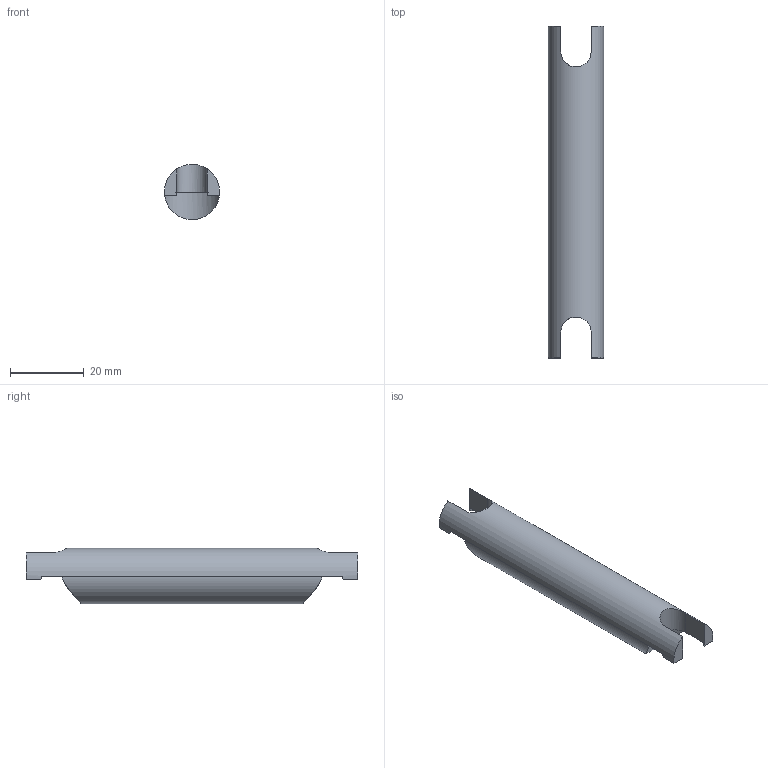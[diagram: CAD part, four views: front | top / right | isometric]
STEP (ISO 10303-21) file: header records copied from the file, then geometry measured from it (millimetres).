
FILE_DESCRIPTION((''),'2;1');
FILE_NAME('SP090171510','2002-12-27T',('Lipro doo'),('Lipro d.o.o.'),'PRO/ENGINEER BY PARAMETRIC TECHNOLOGY CORPORATION, 2001150','PRO/ENGINEER BY PARAMETRIC TECHNOLOGY CORPORATION, 2001150','');
FILE_SCHEMA(('CONFIG_CONTROL_DESIGN'));
Length unit declared in the file: millimetre
Products named in the file (1): SP090171510
Bounding box: 15 x 90 x 14.99 mm (x, y, z)
Volume: 12260.6 mm3; surface area: 4380.2 mm2
Topology: 1 solids, 1 shells, 24 faces, 62 edges, 40 vertices
Faces by surface type: plane 14, cylinder 10
Entity records: 876 total; most frequent: CARTESIAN_POINT 250, ORIENTED_EDGE 124, DIRECTION 118, EDGE_CURVE 62, AXIS2_PLACEMENT_3D 40, VERTEX_POINT 40, VECTOR 38, LINE 38
